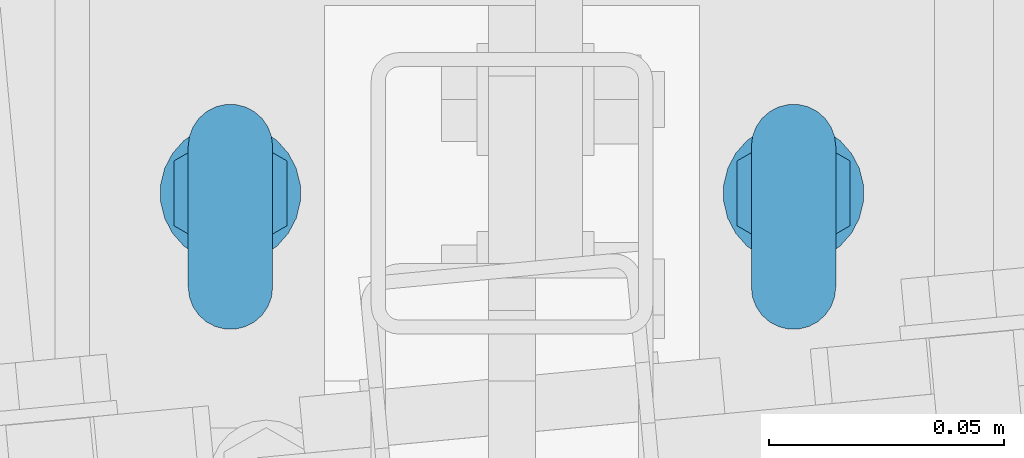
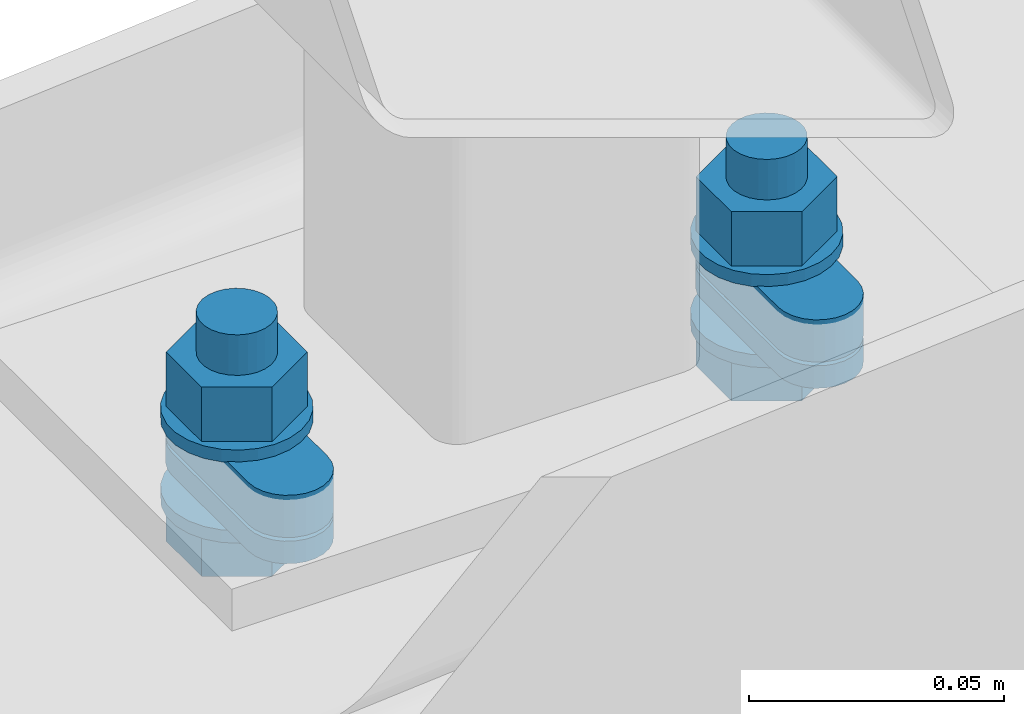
# One storey, part 226 of 271: 3 mechanical fasteners, 2 elements without a shape of their own.
"""IFC2X3 building model written with IfcOpenShell, lengths in millimetres."""

from ifc_helpers import new_model, si_unit, frame, frame_2d, origin_with_axes, origin_2d_with_axis, place, context, subcontext, project, spatial, polyline, circle_curve, parameter, trimmed, segment, composite_curve, circle, outline, extrude, source, transform, mapped, material, type_object, element, aggregate, save


model = new_model("IFC2X3")

# Units and contexts
model_context = context("Model", 3, precision=1e-05, world=origin_with_axes())
body_context = subcontext(model_context, "Body", "Model", "MODEL_VIEW")
ifc_project = project(units=[si_unit("LENGTHUNIT", "METRE", prefix="MILLI"), si_unit("AREAUNIT", "SQUARE_METRE"), si_unit("VOLUMEUNIT", "CUBIC_METRE"), si_unit("MASSUNIT", "GRAM", prefix="KILO"), si_unit("TIMEUNIT", "SECOND"), si_unit("PLANEANGLEUNIT", "RADIAN"), si_unit("SOLIDANGLEUNIT", "STERADIAN"), si_unit("THERMODYNAMICTEMPERATUREUNIT", "DEGREE_CELSIUS"), si_unit("LUMINOUSINTENSITYUNIT", "LUMEN")], contexts=[model_context])

# Site, building, storey
site_placement = place(None, origin_with_axes())
site = spatial("IfcSite", under=ifc_project, at=site_placement, Name="Undefined", CompositionType="ELEMENT")
building_placement = place(site_placement, origin_with_axes())
building = spatial("IfcBuilding", under=site, at=building_placement, Name="Undefined", CompositionType="ELEMENT")
storey_placement = place(building_placement, origin_with_axes())
storey = spatial("IfcBuildingStorey", under=building, at=storey_placement, Name="Undefined", CompositionType="ELEMENT", Elevation=0.0)

# Assembly, mechanical fasteners
assembly_1_placement = place(storey_placement, origin_with_axes())
assembly_1 = element("IfcElementAssembly", 1, at=assembly_1_placement, inside=storey, AssemblyPlace="NOTDEFINED", PredefinedType="RIGID_FRAME")
ifc_material = material(Name="Undefined")
mechanical_fastener_type = type_object("IfcMechanicalFastenerType", Name="Bolt assembly")
shared_shape_1 = source(origin_with_axes(), body_context, "Body", "SweptSolid", [
    extrude(outline(composite_curve([segment(polyline([(-15.0, 9.0), (15.0, 9.0)]), True, "CONTINUOUS"), segment(trimmed(circle_curve(frame_2d((15.0, -1.59872115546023e-14), x_axis=(0.0, 1.0)), 9.0), [parameter(0.0)], [parameter(3.14159265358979)], False, "PARAMETER"), True, "CONTINUOUS"), segment(polyline([(15.0, -9.0), (-15.0, -9.0)]), True, "CONTINUOUS"), segment(trimmed(circle_curve(frame_2d((-15.0, 0.0), x_axis=(0.0, -1.0)), 9.0), [parameter(0.0)], [parameter(3.14159265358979)], False, "PARAMETER"), True, "DISCONTINUOUS")], self_intersect=False)), frame((0.0, -10.0, 0.0), z_axis=(0.0, 1.0, 0.0), x_axis=(1.0, 0.0, 0.0)), (0.0, 0.0, 1.0), 10.1),
])
mechanical_fastener_1_placement = place(assembly_1_placement, frame((9528.37568709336, 4045.32498425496, 20018.0), z_axis=(-1.0, 0.0, 1.38777878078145e-17), x_axis=(0.0, -1.0, 0.0)))
mechanical_fastener_1 = element("IfcMechanicalFastener", 2, at=mechanical_fastener_1_placement, type_object=mechanical_fastener_type, material=ifc_material, Name="Bolt assembly", NominalDiameter=16.0, NominalLength=10.0, context=body_context, shape_type="MappedRepresentation", body=[
    mapped(shared_shape_1, transform((0.0, 0.0, -60.0))),
    mapped(shared_shape_1, transform((0.0, 0.0, 60.0))),
])
shared_shape_2 = source(origin_with_axes(), body_context, "Body", "SweptSolid", [
    extrude(circle(Radius=9.0, at=origin_2d_with_axis()), frame((0.0, -16.2000001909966, 0.0), z_axis=(0.0, 1.0, 0.0), x_axis=(1.0, 0.0, 0.0)), (0.0, 0.0, 1.0), 5.3),
    extrude(circle(Radius=9.0, at=origin_2d_with_axis()), frame((0.0, -10.1, 0.0), z_axis=(0.0, 1.0, 0.0), x_axis=(1.0, 0.0, 0.0)), (0.0, 0.0, 1.0), 10.1),
    extrude(outline(polyline([(13.85640646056, 0.0), (6.92820323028, 12.0000000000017), (-6.92820323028, 12.0000000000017), (-13.85640646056, 0.0), (-6.92820323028, -12.0000000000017), (6.92820323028, -12.0000000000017), (13.85640646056, 0.0)])), frame((0.0, -29.3000001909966, 0.0), z_axis=(0.0, 1.0, 0.0), x_axis=(1.0, 0.0, 0.0)), (0.0, 0.0, 1.0), 10.0),
    extrude(circle(Radius=8.0, at=origin_2d_with_axis()), frame((0.0, -19.3000001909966, 0.0), z_axis=(0.0, 1.0, 0.0), x_axis=(1.0, 0.0, 0.0)), (0.0, 0.0, 1.0), 45.0),
    extrude(circle(Radius=15.0, at=origin_2d_with_axis()), frame((0.0, -19.3000001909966, 0.0), z_axis=(0.0, 1.0, 0.0), x_axis=(1.0, 0.0, 0.0)), (0.0, 0.0, 1.0), 3.0),
    extrude(circle(Radius=15.0, at=origin_2d_with_axis()), frame((0.0, 0.0, 0.0), z_axis=(0.0, 1.0, 0.0), x_axis=(1.0, 0.0, 0.0)), (0.0, 0.0, 1.0), 3.0),
    extrude(outline(polyline([(13.85640646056, 0.0), (6.92820323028, 12.0000000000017), (-6.92820323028, 12.0000000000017), (-13.85640646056, 0.0), (-6.92820323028, -12.0000000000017), (6.92820323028, -12.0000000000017), (13.85640646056, 0.0)])), frame((0.0, 3.0, 0.0), z_axis=(0.0, 1.0, 0.0), x_axis=(1.0, 0.0, 0.0)), (0.0, 0.0, 1.0), 13.0),
])
mechanical_fastener_2_placement = place(assembly_1_placement, frame((9528.37568709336, 4080.32498425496, 20018.0), z_axis=(-1.0, 0.0, 1.38777878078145e-17), x_axis=(0.0, -1.0, 0.0)))
mechanical_fastener_2 = element("IfcMechanicalFastener", 3, at=mechanical_fastener_2_placement, type_object=mechanical_fastener_type, material=ifc_material, Name="Bolt assembly", NominalDiameter=16.0, NominalLength=45.0, context=body_context, shape_type="MappedRepresentation", body=[
    mapped(shared_shape_2, transform((30.0, 0.0, -60.0))),
    mapped(shared_shape_2, transform((30.0, 0.0, 60.0))),
])
aggregate(assembly_1, [mechanical_fastener_1, mechanical_fastener_2])

# Assembly, mechanical fastener
assembly_2_placement = place(storey_placement, origin_with_axes())
assembly_2 = element("IfcElementAssembly", 4, at=assembly_2_placement, inside=storey, AssemblyPlace="NOTDEFINED", PredefinedType="RIGID_FRAME")
shared_shape_3 = source(origin_with_axes(), body_context, "Body", "SweptSolid", [
    extrude(outline(composite_curve([segment(polyline([(-15.0, 9.0), (15.0, 9.0)]), True, "CONTINUOUS"), segment(trimmed(circle_curve(frame_2d((15.0, -1.59872115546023e-14), x_axis=(0.0, 1.0)), 9.0), [parameter(0.0)], [parameter(3.14159265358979)], False, "PARAMETER"), True, "CONTINUOUS"), segment(polyline([(15.0, -9.0), (-15.0, -9.0)]), True, "CONTINUOUS"), segment(trimmed(circle_curve(frame_2d((-15.0, 0.0), x_axis=(0.0, -1.0)), 9.0), [parameter(0.0)], [parameter(3.14159265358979)], False, "PARAMETER"), True, "DISCONTINUOUS")], self_intersect=False)), frame((0.0, -16.3000001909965, 0.0), z_axis=(0.0, 1.0, 0.0), x_axis=(1.0, 0.0, 0.0)), (0.0, 0.0, 1.0), 5.4),
])
mechanical_fastener_3_placement = place(assembly_2_placement, frame((9528.37568709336, 4045.32498425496, 20018.0), z_axis=(-1.0, 0.0, 1.38777878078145e-17), x_axis=(0.0, -1.0, 0.0)))
mechanical_fastener_3 = element("IfcMechanicalFastener", 5, at=mechanical_fastener_3_placement, type_object=mechanical_fastener_type, material=ifc_material, Name="Bolt assembly", NominalDiameter=16.0, NominalLength=5.30000019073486, context=body_context, shape_type="MappedRepresentation", body=[
    mapped(shared_shape_3, transform((0.0, 0.0, 60.0))),
    mapped(shared_shape_3, transform((0.0, 0.0, -60.0))),
])
aggregate(assembly_2, [mechanical_fastener_3])

save(model, "model.ifc")
